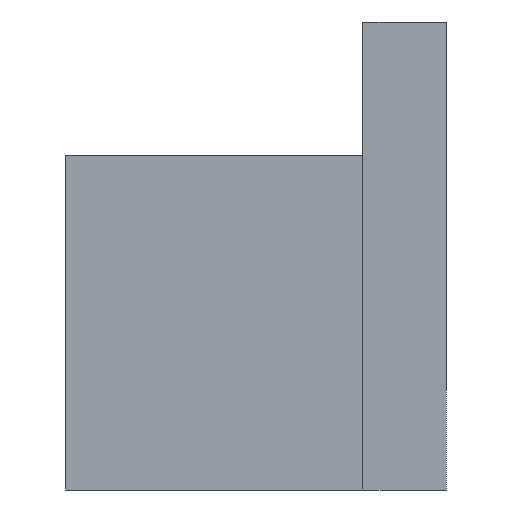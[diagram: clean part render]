
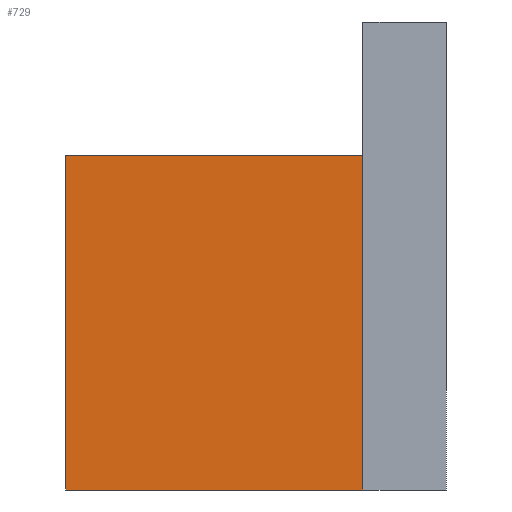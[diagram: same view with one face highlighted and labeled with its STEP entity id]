
A CAD part, front view. The second image highlights one B-rep face of the part: STEP entity #729.
In plain terms, the highlighted planar face has unit normal (0, -1, 0).
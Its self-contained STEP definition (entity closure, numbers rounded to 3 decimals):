
#32 = PLANE('',#33);
#33 = AXIS2_PLACEMENT_3D('',#34,#35,#36);
#34 = CARTESIAN_POINT('',(-0.8,-52.5,-3.185));
#35 = DIRECTION('',(1.,0.,0.));
#36 = DIRECTION('',(0.,0.,1.));
#85 = VERTEX_POINT('',#86);
#86 = CARTESIAN_POINT('',(-0.8,-51.7,-3.185));
#100 = PLANE('',#101);
#101 = AXIS2_PLACEMENT_3D('',#102,#103,#104);
#102 = CARTESIAN_POINT('',(-0.8,-52.5,-3.185));
#103 = DIRECTION('',(0.,0.,1.));
#104 = DIRECTION('',(1.,0.,0.));
#112 = EDGE_CURVE('',#85,#113,#115,.T.);
#113 = VERTEX_POINT('',#114);
#114 = CARTESIAN_POINT('',(-0.8,-51.7,-1.185));
#115 = SURFACE_CURVE('',#116,(#120,#126),.PCURVE_S1.);
#116 = LINE('',#117,#118);
#117 = CARTESIAN_POINT('',(-0.8,-51.7,-3.185));
#118 = VECTOR('',#119,1.);
#119 = DIRECTION('',(0.,0.,1.));
#120 = PCURVE('',#32,#121);
#121 = DEFINITIONAL_REPRESENTATION('',(#122),#125);
#122 = B_SPLINE_CURVE_WITH_KNOTS('',1,(#123,#124),.UNSPECIFIED.,.F.,.F.,
  (2,2),(0.,2.),.PIECEWISE_BEZIER_KNOTS.);
#123 = CARTESIAN_POINT('',(0.,-0.8));
#124 = CARTESIAN_POINT('',(2.,-0.8));
#125 = ( GEOMETRIC_REPRESENTATION_CONTEXT(2) 
PARAMETRIC_REPRESENTATION_CONTEXT() REPRESENTATION_CONTEXT('2D SPACE',''
  ) );
#126 = PCURVE('',#127,#132);
#127 = PLANE('',#128);
#128 = AXIS2_PLACEMENT_3D('',#129,#130,#131);
#129 = CARTESIAN_POINT('',(-2.579,-51.7,
    -3.185));
#130 = DIRECTION('',(0.,1.,0.));
#131 = DIRECTION('',(0.,0.,1.));
#132 = DEFINITIONAL_REPRESENTATION('',(#133),#136);
#133 = B_SPLINE_CURVE_WITH_KNOTS('',1,(#134,#135),.UNSPECIFIED.,.F.,.F.,
  (2,2),(0.,2.),.PIECEWISE_BEZIER_KNOTS.);
#134 = CARTESIAN_POINT('',(0.,1.779));
#135 = CARTESIAN_POINT('',(2.,1.779));
#136 = ( GEOMETRIC_REPRESENTATION_CONTEXT(2) 
PARAMETRIC_REPRESENTATION_CONTEXT() REPRESENTATION_CONTEXT('2D SPACE',''
  ) );
#153 = PLANE('',#154);
#154 = AXIS2_PLACEMENT_3D('',#155,#156,#157);
#155 = CARTESIAN_POINT('',(-2.579,-51.7,
    -1.185));
#156 = DIRECTION('',(0.,0.,1.));
#157 = DIRECTION('',(1.,0.,0.));
#609 = VERTEX_POINT('',#610);
#610 = CARTESIAN_POINT('',(-2.579,-51.7,
    -1.185));
#624 = PLANE('',#625);
#625 = AXIS2_PLACEMENT_3D('',#626,#627,#628);
#626 = CARTESIAN_POINT('',(-2.579,-51.7,
    -3.185));
#627 = DIRECTION('',(1.,0.,0.));
#628 = DIRECTION('',(0.,0.,1.));
#636 = EDGE_CURVE('',#609,#113,#637,.T.);
#637 = SURFACE_CURVE('',#638,(#642,#649),.PCURVE_S1.);
#638 = LINE('',#639,#640);
#639 = CARTESIAN_POINT('',(-2.579,-51.7,
    -1.185));
#640 = VECTOR('',#641,1.);
#641 = DIRECTION('',(1.,0.,0.));
#642 = PCURVE('',#153,#643);
#643 = DEFINITIONAL_REPRESENTATION('',(#644),#648);
#644 = LINE('',#645,#646);
#645 = CARTESIAN_POINT('',(0.,0.));
#646 = VECTOR('',#647,1.);
#647 = DIRECTION('',(1.,0.));
#648 = ( GEOMETRIC_REPRESENTATION_CONTEXT(2) 
PARAMETRIC_REPRESENTATION_CONTEXT() REPRESENTATION_CONTEXT('2D SPACE',''
  ) );
#649 = PCURVE('',#127,#650);
#650 = DEFINITIONAL_REPRESENTATION('',(#651),#655);
#651 = LINE('',#652,#653);
#652 = CARTESIAN_POINT('',(2.,0.));
#653 = VECTOR('',#654,1.);
#654 = DIRECTION('',(0.,1.));
#655 = ( GEOMETRIC_REPRESENTATION_CONTEXT(2) 
PARAMETRIC_REPRESENTATION_CONTEXT() REPRESENTATION_CONTEXT('2D SPACE',''
  ) );
#729 = ADVANCED_FACE('',(#730),#127,.F.);
#730 = FACE_BOUND('',#731,.F.);
#731 = EDGE_LOOP('',(#732,#755,#776,#777));
#732 = ORIENTED_EDGE('',*,*,#733,.F.);
#733 = EDGE_CURVE('',#734,#85,#736,.T.);
#734 = VERTEX_POINT('',#735);
#735 = CARTESIAN_POINT('',(-2.579,-51.7,
    -3.185));
#736 = SURFACE_CURVE('',#737,(#741,#748),.PCURVE_S1.);
#737 = LINE('',#738,#739);
#738 = CARTESIAN_POINT('',(-2.579,-51.7,
    -3.185));
#739 = VECTOR('',#740,1.);
#740 = DIRECTION('',(1.,0.,0.));
#741 = PCURVE('',#127,#742);
#742 = DEFINITIONAL_REPRESENTATION('',(#743),#747);
#743 = LINE('',#744,#745);
#744 = CARTESIAN_POINT('',(0.,0.));
#745 = VECTOR('',#746,1.);
#746 = DIRECTION('',(0.,1.));
#747 = ( GEOMETRIC_REPRESENTATION_CONTEXT(2) 
PARAMETRIC_REPRESENTATION_CONTEXT() REPRESENTATION_CONTEXT('2D SPACE',''
  ) );
#748 = PCURVE('',#100,#749);
#749 = DEFINITIONAL_REPRESENTATION('',(#750),#754);
#750 = LINE('',#751,#752);
#751 = CARTESIAN_POINT('',(-1.779,0.8));
#752 = VECTOR('',#753,1.);
#753 = DIRECTION('',(1.,0.));
#754 = ( GEOMETRIC_REPRESENTATION_CONTEXT(2) 
PARAMETRIC_REPRESENTATION_CONTEXT() REPRESENTATION_CONTEXT('2D SPACE',''
  ) );
#755 = ORIENTED_EDGE('',*,*,#756,.T.);
#756 = EDGE_CURVE('',#734,#609,#757,.T.);
#757 = SURFACE_CURVE('',#758,(#762,#769),.PCURVE_S1.);
#758 = LINE('',#759,#760);
#759 = CARTESIAN_POINT('',(-2.579,-51.7,
    -3.185));
#760 = VECTOR('',#761,1.);
#761 = DIRECTION('',(0.,0.,1.));
#762 = PCURVE('',#127,#763);
#763 = DEFINITIONAL_REPRESENTATION('',(#764),#768);
#764 = LINE('',#765,#766);
#765 = CARTESIAN_POINT('',(0.,0.));
#766 = VECTOR('',#767,1.);
#767 = DIRECTION('',(1.,0.));
#768 = ( GEOMETRIC_REPRESENTATION_CONTEXT(2) 
PARAMETRIC_REPRESENTATION_CONTEXT() REPRESENTATION_CONTEXT('2D SPACE',''
  ) );
#769 = PCURVE('',#624,#770);
#770 = DEFINITIONAL_REPRESENTATION('',(#771),#775);
#771 = LINE('',#772,#773);
#772 = CARTESIAN_POINT('',(0.,0.));
#773 = VECTOR('',#774,1.);
#774 = DIRECTION('',(1.,0.));
#775 = ( GEOMETRIC_REPRESENTATION_CONTEXT(2) 
PARAMETRIC_REPRESENTATION_CONTEXT() REPRESENTATION_CONTEXT('2D SPACE',''
  ) );
#776 = ORIENTED_EDGE('',*,*,#636,.T.);
#777 = ORIENTED_EDGE('',*,*,#112,.F.);
